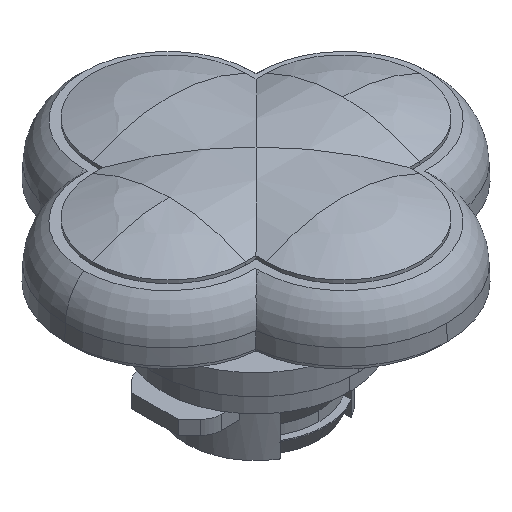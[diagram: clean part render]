
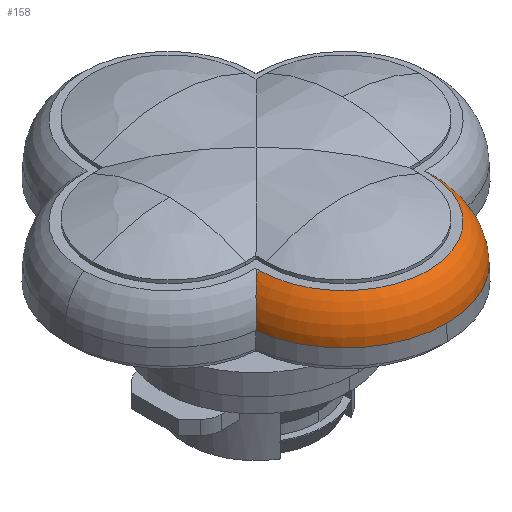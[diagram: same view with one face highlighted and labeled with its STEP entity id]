
A CAD part, isometric view. The second image highlights one B-rep face of the part: STEP entity #158.
In plain terms, the highlighted toroidal (fillet/blend) face has major radius 7.857 mm and minor radius 6.917 mm.
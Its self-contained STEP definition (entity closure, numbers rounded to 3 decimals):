
#158 = ADVANCED_FACE( '', ( #361 ), #362, .T. );
#361 = FACE_OUTER_BOUND( '', #600, .T. );
#362 = TOROIDAL_SURFACE( '', #601, 7.857, 6.917 );
#600 = EDGE_LOOP( '', ( #1345, #1346, #1347, #1348, #1349, #1350, #1351 ) );
#601 = AXIS2_PLACEMENT_3D( '', #1352, #1353, #1354 );
#1345 = ORIENTED_EDGE( '', *, *, #1695, .T. );
#1346 = ORIENTED_EDGE( '', *, *, #1808, .T. );
#1347 = ORIENTED_EDGE( '', *, *, #1689, .F. );
#1348 = ORIENTED_EDGE( '', *, *, #1870, .F. );
#1349 = ORIENTED_EDGE( '', *, *, #1827, .T. );
#1350 = ORIENTED_EDGE( '', *, *, #1692, .T. );
#1351 = ORIENTED_EDGE( '', *, *, #1838, .T. );
#1352 = CARTESIAN_POINT( '', ( 0., -12.65, 23.554 ) );
#1353 = DIRECTION( '', ( 0., 0., -1. ) );
#1354 = DIRECTION( '', ( -1., 0., 0. ) );
#1689 = EDGE_CURVE( '', #2054, #2057, #2058, .T. );
#1692 = EDGE_CURVE( '', #2062, #2063, #2064, .T. );
#1695 = EDGE_CURVE( '', #2068, #2069, #2070, .T. );
#1808 = EDGE_CURVE( '', #2069, #2057, #2257, .T. );
#1827 = EDGE_CURVE( '', #2097, #2062, #2283, .T. );
#1838 = EDGE_CURVE( '', #2063, #2068, #2303, .T. );
#1870 = EDGE_CURVE( '', #2097, #2054, #2347, .T. );
#2054 = VERTEX_POINT( '', #2611 );
#2057 = VERTEX_POINT( '', #2615 );
#2058 = CIRCLE( '', #2616, 14.772 );
#2062 = VERTEX_POINT( '', #2623 );
#2063 = VERTEX_POINT( '', #2624 );
#2064 = CIRCLE( '', #2625, 6.917 );
#2068 = VERTEX_POINT( '', #2636 );
#2069 = VERTEX_POINT( '', #2637 );
#2070 = CIRCLE( '', #2638, 6.917 );
#2097 = VERTEX_POINT( '', #2677 );
#2257 = B_SPLINE_CURVE_WITH_KNOTS( '', 3, ( #2962, #2963, #2964, #2965, #2966, #2967, #2968, #2969, #2970, #2971 ), .UNSPECIFIED., .F., .F., ( 4, 2, 2, 2, 4 ), ( 17.06, 17.12, 19.174, 20.721, 22.206 ), .UNSPECIFIED. );
#2283 = B_SPLINE_CURVE_WITH_KNOTS( '', 3, ( #3005, #3006, #3007, #3008, #3009, #3010, #3011, #3012 ), .UNSPECIFIED., .F., .F., ( 4, 2, 2, 4 ), ( 0., 2.179, 4.538, 6.321 ), .UNSPECIFIED. );
#2303 = CIRCLE( '', #3039, 12.122 );
#2347 = CIRCLE( '', #3100, 14.772 );
#2611 = CARTESIAN_POINT( '', ( 0., -27.422, 23.738 ) );
#2615 = CARTESIAN_POINT( '', ( -14.638, -14.638, 23.738 ) );
#2616 = AXIS2_PLACEMENT_3D( '', #3348, #3349, #3350 );
#2623 = CARTESIAN_POINT( '', ( 12.65, -12.65, 28.541 ) );
#2624 = CARTESIAN_POINT( '', ( 12.122, -12.65, 29. ) );
#2625 = AXIS2_PLACEMENT_3D( '', #3354, #3355, #3356 );
#2636 = CARTESIAN_POINT( '', ( -12.122, -12.65, 29. ) );
#2637 = CARTESIAN_POINT( '', ( -12.65, -12.65, 28.541 ) );
#2638 = AXIS2_PLACEMENT_3D( '', #3360, #3361, #3362 );
#2677 = CARTESIAN_POINT( '', ( 14.638, -14.638, 23.738 ) );
#2962 = CARTESIAN_POINT( '', ( -12.109, -12.109, 29. ) );
#2963 = CARTESIAN_POINT( '', ( -12.129, -12.129, 28.985 ) );
#2964 = CARTESIAN_POINT( '', ( -12.149, -12.149, 28.971 ) );
#2965 = CARTESIAN_POINT( '', ( -12.832, -12.832, 28.446 ) );
#2966 = CARTESIAN_POINT( '', ( -13.338, -13.338, 27.827 ) );
#2967 = CARTESIAN_POINT( '', ( -13.997, -13.997, 26.671 ) );
#2968 = CARTESIAN_POINT( '', ( -14.225, -14.225, 26.119 ) );
#2969 = CARTESIAN_POINT( '', ( -14.537, -14.537, 24.95 ) );
#2970 = CARTESIAN_POINT( '', ( -14.623, -14.623, 24.349 ) );
#2971 = CARTESIAN_POINT( '', ( -14.638, -14.638, 23.738 ) );
#3005 = CARTESIAN_POINT( '', ( 14.638, -14.638, 23.738 ) );
#3006 = CARTESIAN_POINT( '', ( 14.62, -14.62, 24.464 ) );
#3007 = CARTESIAN_POINT( '', ( 14.502, -14.502, 25.174 ) );
#3008 = CARTESIAN_POINT( '', ( 14.065, -14.065, 26.556 ) );
#3009 = CARTESIAN_POINT( '', ( 13.739, -13.739, 27.198 ) );
#3010 = CARTESIAN_POINT( '', ( 13.037, -13.037, 28.165 ) );
#3011 = CARTESIAN_POINT( '', ( 12.639, -12.639, 28.605 ) );
#3012 = CARTESIAN_POINT( '', ( 12.109, -12.109, 29. ) );
#3039 = AXIS2_PLACEMENT_3D( '', #3615, #3616, #3617 );
#3100 = AXIS2_PLACEMENT_3D( '', #3677, #3678, #3679 );
#3348 = CARTESIAN_POINT( '', ( 0., -12.65, 23.738 ) );
#3349 = DIRECTION( '', ( 0., 0., -1. ) );
#3350 = DIRECTION( '', ( 0., -1., 0. ) );
#3354 = CARTESIAN_POINT( '', ( 7.857, -12.65, 23.554 ) );
#3355 = DIRECTION( '', ( 0., -1., 0. ) );
#3356 = DIRECTION( '', ( 1., 0., 0. ) );
#3360 = CARTESIAN_POINT( '', ( -7.857, -12.65, 23.554 ) );
#3361 = DIRECTION( '', ( 0., -1., 0. ) );
#3362 = DIRECTION( '', ( -1., 0., 0. ) );
#3615 = CARTESIAN_POINT( '', ( 0., -12.65, 29. ) );
#3616 = DIRECTION( '', ( 0., 0., -1. ) );
#3617 = DIRECTION( '', ( 0., -1., 0. ) );
#3677 = CARTESIAN_POINT( '', ( 0., -12.65, 23.738 ) );
#3678 = DIRECTION( '', ( 0., 0., -1. ) );
#3679 = DIRECTION( '', ( 0., -1., 0. ) );
